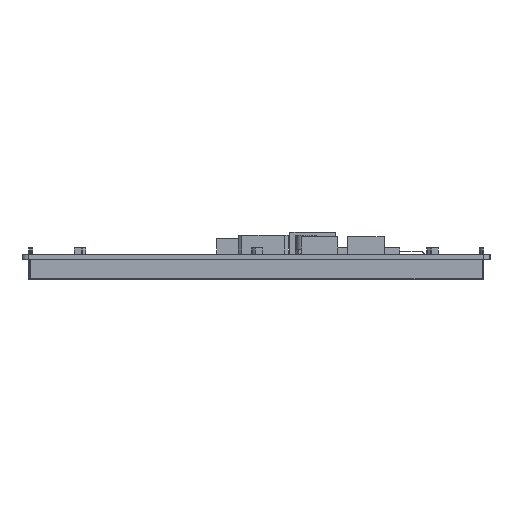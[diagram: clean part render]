
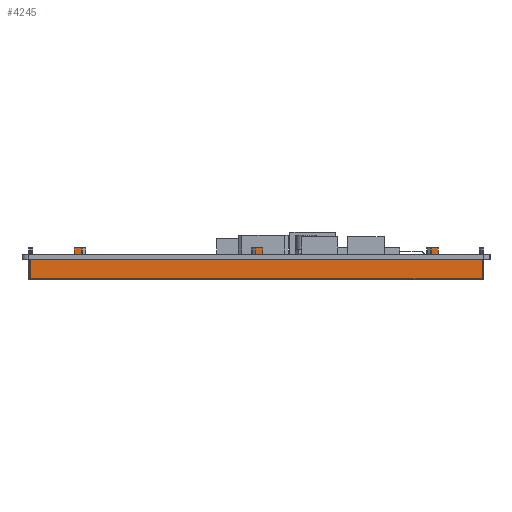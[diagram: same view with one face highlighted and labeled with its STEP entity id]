
A CAD part, left-side view. The second image highlights one B-rep face of the part: STEP entity #4245.
In plain terms, the highlighted planar face has unit normal (-1, 0, 0).
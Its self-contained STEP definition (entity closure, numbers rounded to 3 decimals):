
#4245=ADVANCED_FACE('',(#7211),#5685,.T.);
#5685=PLANE('',#35716);
#7211=FACE_OUTER_BOUND('',#8872,.T.);
#8872=EDGE_LOOP('',(#16976,#16977,#16978,#16979,#16980,#16981,#16982,#16983,
#16984,#16985,#16986,#16987,#16988,#16989,#16990,#16991,#16992,#16993,#16994,
#16995,#16996,#16997));
#16976=ORIENTED_EDGE('',*,*,#25229,.F.);
#16977=ORIENTED_EDGE('',*,*,#25230,.T.);
#16978=ORIENTED_EDGE('',*,*,#25231,.T.);
#16979=ORIENTED_EDGE('',*,*,#25232,.F.);
#16980=ORIENTED_EDGE('',*,*,#25233,.F.);
#16981=ORIENTED_EDGE('',*,*,#25234,.F.);
#16982=ORIENTED_EDGE('',*,*,#25235,.T.);
#16983=ORIENTED_EDGE('',*,*,#25236,.T.);
#16984=ORIENTED_EDGE('',*,*,#25237,.T.);
#16985=ORIENTED_EDGE('',*,*,#25226,.F.);
#16986=ORIENTED_EDGE('',*,*,#25238,.F.);
#16987=ORIENTED_EDGE('',*,*,#25239,.F.);
#16988=ORIENTED_EDGE('',*,*,#25240,.T.);
#16989=ORIENTED_EDGE('',*,*,#25241,.T.);
#16990=ORIENTED_EDGE('',*,*,#25242,.T.);
#16991=ORIENTED_EDGE('',*,*,#25222,.F.);
#16992=ORIENTED_EDGE('',*,*,#25243,.F.);
#16993=ORIENTED_EDGE('',*,*,#25244,.T.);
#16994=ORIENTED_EDGE('',*,*,#25245,.F.);
#16995=ORIENTED_EDGE('',*,*,#25246,.F.);
#16996=ORIENTED_EDGE('',*,*,#25247,.T.);
#16997=ORIENTED_EDGE('',*,*,#25220,.F.);
#20859=VERTEX_POINT('',#52512);
#20861=VERTEX_POINT('',#52516);
#20862=VERTEX_POINT('',#52520);
#20864=VERTEX_POINT('',#52523);
#20866=VERTEX_POINT('',#52529);
#20868=VERTEX_POINT('',#52532);
#20870=VERTEX_POINT('',#52538);
#20871=VERTEX_POINT('',#52540);
#20872=VERTEX_POINT('',#52542);
#20873=VERTEX_POINT('',#52544);
#20874=VERTEX_POINT('',#52546);
#20875=VERTEX_POINT('',#52548);
#20876=VERTEX_POINT('',#52550);
#20877=VERTEX_POINT('',#52552);
#20878=VERTEX_POINT('',#52555);
#20879=VERTEX_POINT('',#52557);
#20880=VERTEX_POINT('',#52559);
#20881=VERTEX_POINT('',#52561);
#20882=VERTEX_POINT('',#52564);
#20883=VERTEX_POINT('',#52566);
#20884=VERTEX_POINT('',#52568);
#20885=VERTEX_POINT('',#52570);
#25220=EDGE_CURVE('',#20861,#20859,#29453,.T.);
#25222=EDGE_CURVE('',#20862,#20864,#29455,.T.);
#25226=EDGE_CURVE('',#20866,#20868,#29459,.T.);
#25229=EDGE_CURVE('',#20870,#20861,#29462,.T.);
#25230=EDGE_CURVE('',#20870,#20871,#29463,.T.);
#25231=EDGE_CURVE('',#20871,#20872,#29464,.T.);
#25232=EDGE_CURVE('',#20873,#20872,#29465,.T.);
#25233=EDGE_CURVE('',#20874,#20873,#29466,.T.);
#25234=EDGE_CURVE('',#20875,#20874,#29467,.T.);
#25235=EDGE_CURVE('',#20875,#20876,#29468,.T.);
#25236=EDGE_CURVE('',#20876,#20877,#29469,.T.);
#25237=EDGE_CURVE('',#20877,#20868,#29470,.T.);
#25238=EDGE_CURVE('',#20878,#20866,#29471,.T.);
#25239=EDGE_CURVE('',#20879,#20878,#29472,.T.);
#25240=EDGE_CURVE('',#20879,#20880,#29473,.T.);
#25241=EDGE_CURVE('',#20880,#20881,#29474,.T.);
#25242=EDGE_CURVE('',#20881,#20864,#29475,.T.);
#25243=EDGE_CURVE('',#20882,#20862,#29476,.T.);
#25244=EDGE_CURVE('',#20882,#20883,#29477,.T.);
#25245=EDGE_CURVE('',#20884,#20883,#29478,.T.);
#25246=EDGE_CURVE('',#20885,#20884,#29479,.T.);
#25247=EDGE_CURVE('',#20885,#20859,#29480,.T.);
#29453=LINE('',#52517,#33550);
#29455=LINE('',#52522,#33552);
#29459=LINE('',#52531,#33556);
#29462=LINE('',#52537,#33559);
#29463=LINE('',#52539,#33560);
#29464=LINE('',#52541,#33561);
#29465=LINE('',#52543,#33562);
#29466=LINE('',#52545,#33563);
#29467=LINE('',#52547,#33564);
#29468=LINE('',#52549,#33565);
#29469=LINE('',#52551,#33566);
#29470=LINE('',#52553,#33567);
#29471=LINE('',#52554,#33568);
#29472=LINE('',#52556,#33569);
#29473=LINE('',#52558,#33570);
#29474=LINE('',#52560,#33571);
#29475=LINE('',#52562,#33572);
#29476=LINE('',#52563,#33573);
#29477=LINE('',#52565,#33574);
#29478=LINE('',#52567,#33575);
#29479=LINE('',#52569,#33576);
#29480=LINE('',#52571,#33577);
#33550=VECTOR('',#42974,1.);
#33552=VECTOR('',#42978,1.);
#33556=VECTOR('',#42984,1.);
#33559=VECTOR('',#42989,1.);
#33560=VECTOR('',#42990,1.);
#33561=VECTOR('',#42991,1.);
#33562=VECTOR('',#42992,1.);
#33563=VECTOR('',#42993,1.);
#33564=VECTOR('',#42994,1.);
#33565=VECTOR('',#42995,1.);
#33566=VECTOR('',#42996,1.);
#33567=VECTOR('',#42997,1.);
#33568=VECTOR('',#42998,1.);
#33569=VECTOR('',#42999,1.);
#33570=VECTOR('',#43000,1.);
#33571=VECTOR('',#43001,1.);
#33572=VECTOR('',#43002,1.);
#33573=VECTOR('',#43003,1.);
#33574=VECTOR('',#43004,1.);
#33575=VECTOR('',#43005,1.);
#33576=VECTOR('',#43006,1.);
#33577=VECTOR('',#43007,1.);
#35716=AXIS2_PLACEMENT_3D('',#52572,#43008,#43009);
#42974=DIRECTION('',(0.,-1.,0.));
#42978=DIRECTION('',(0.,-1.,0.));
#42984=DIRECTION('',(0.,-1.,0.));
#42989=DIRECTION('',(0.,0.,1.));
#42990=DIRECTION('',(0.,-1.,0.));
#42991=DIRECTION('',(0.,0.,1.));
#42992=DIRECTION('',(0.,-1.,0.));
#42993=DIRECTION('',(0.,0.,-1.));
#42994=DIRECTION('',(0.,-1.,0.));
#42995=DIRECTION('',(0.,0.,-1.));
#42996=DIRECTION('',(0.,-1.,0.));
#42997=DIRECTION('',(0.,0.,-1.));
#42998=DIRECTION('',(0.,0.,-1.));
#42999=DIRECTION('',(0.,-1.,0.));
#43000=DIRECTION('',(0.,0.,-1.));
#43001=DIRECTION('',(0.,-1.,0.));
#43002=DIRECTION('',(0.,0.,-1.));
#43003=DIRECTION('',(0.,0.,-1.));
#43004=DIRECTION('',(0.,-1.,0.));
#43005=DIRECTION('',(0.,0.,-1.));
#43006=DIRECTION('',(0.,-1.,0.));
#43007=DIRECTION('',(0.,0.,-1.));
#43008=DIRECTION('',(-1.,0.,0.));
#43009=DIRECTION('',(0.,1.,0.));
#52512=CARTESIAN_POINT('',(1013.555,86.184,-1.6));
#52516=CARTESIAN_POINT('',(1013.555,100.243,-1.6));
#52517=CARTESIAN_POINT('',(1013.555,100.243,-1.6));
#52520=CARTESIAN_POINT('',(1013.555,84.184,-1.6));
#52522=CARTESIAN_POINT('',(1013.555,100.243,-1.6));
#52523=CARTESIAN_POINT('',(1013.555,28.708,-1.6));
#52529=CARTESIAN_POINT('',(1013.555,26.708,-1.6));
#52531=CARTESIAN_POINT('',(1013.555,100.243,-1.6));
#52532=CARTESIAN_POINT('',(1013.555,-26.802,-1.6));
#52537=CARTESIAN_POINT('',(1013.555,100.243,-8.1));
#52538=CARTESIAN_POINT('',(1013.555,100.243,-7.7));
#52539=CARTESIAN_POINT('',(1013.555,-42.757,-7.7));
#52540=CARTESIAN_POINT('',(1013.555,-42.757,-7.7));
#52541=CARTESIAN_POINT('',(1013.555,-42.757,-8.1));
#52542=CARTESIAN_POINT('',(1013.555,-42.757,-1.6));
#52543=CARTESIAN_POINT('',(1013.555,100.243,-1.6));
#52544=CARTESIAN_POINT('',(1013.555,-28.802,-1.6));
#52545=CARTESIAN_POINT('',(1013.555,-28.802,2.));
#52546=CARTESIAN_POINT('',(1013.555,-28.802,2.));
#52547=CARTESIAN_POINT('',(1013.555,-26.575,2.));
#52548=CARTESIAN_POINT('',(1013.555,-26.575,2.));
#52549=CARTESIAN_POINT('',(1013.555,-26.575,2.));
#52550=CARTESIAN_POINT('',(1013.555,-26.575,0.));
#52551=CARTESIAN_POINT('',(1013.555,-26.575,0.));
#52552=CARTESIAN_POINT('',(1013.555,-26.802,0.));
#52553=CARTESIAN_POINT('',(1013.555,-26.802,0.));
#52554=CARTESIAN_POINT('',(1013.555,26.708,0.));
#52555=CARTESIAN_POINT('',(1013.555,26.708,2.));
#52556=CARTESIAN_POINT('',(1013.555,28.935,2.));
#52557=CARTESIAN_POINT('',(1013.555,28.935,2.));
#52558=CARTESIAN_POINT('',(1013.555,28.935,2.));
#52559=CARTESIAN_POINT('',(1013.555,28.935,0.));
#52560=CARTESIAN_POINT('',(1013.555,28.935,0.));
#52561=CARTESIAN_POINT('',(1013.555,28.708,0.));
#52562=CARTESIAN_POINT('',(1013.555,28.708,0.));
#52563=CARTESIAN_POINT('',(1013.555,84.184,0.));
#52564=CARTESIAN_POINT('',(1013.555,84.184,0.));
#52565=CARTESIAN_POINT('',(1013.555,86.184,0.));
#52566=CARTESIAN_POINT('',(1013.555,83.957,0.));
#52567=CARTESIAN_POINT('',(1013.555,83.957,2.));
#52568=CARTESIAN_POINT('',(1013.555,83.957,2.));
#52569=CARTESIAN_POINT('',(1013.555,86.184,2.));
#52570=CARTESIAN_POINT('',(1013.555,86.184,2.));
#52571=CARTESIAN_POINT('',(1013.555,86.184,0.));
#52572=CARTESIAN_POINT('',(1013.555,100.243,-8.1));
